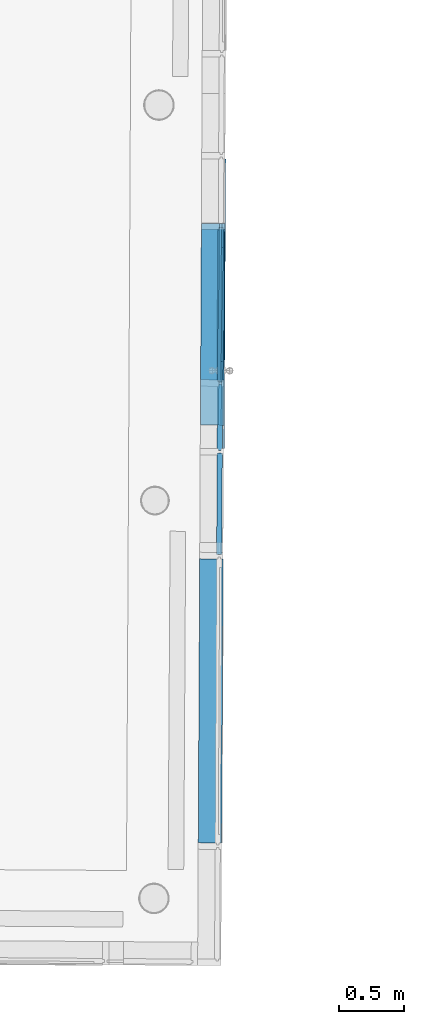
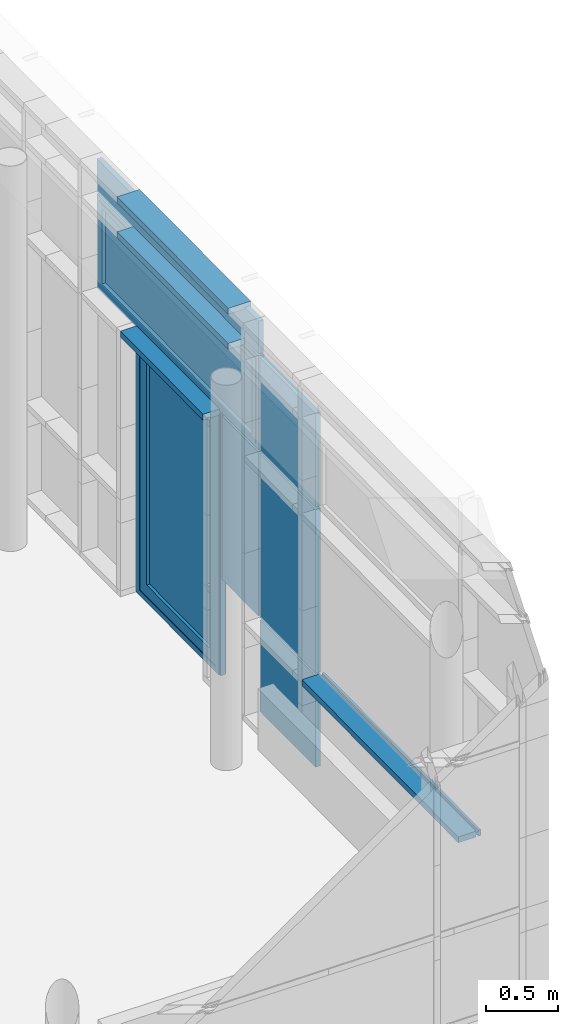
# One storey, part 144 of 196: 13 building element parts, 1 element without a shape of its own.
"""IFC2X3 building model written with IfcOpenShell, lengths in metres."""

from ifc_helpers import new_model, entity, si_unit, converted_unit, derived_unit, money_unit, direction, frame, origin_with_axes, place, context, subcontext, project, spatial, faceted_brep, material, type_object, element, aggregate, save


model = new_model("IFC2X3")

# Units and contexts
model_context = context("Model", 3, precision=1e-05, world=origin_with_axes(), true_north=direction((0.0, 1.0)))
body_context = subcontext(model_context, "Body", "Model", "MODEL_VIEW")
ifc_project = project(units=[si_unit("LENGTHUNIT", "METRE"), si_unit("AREAUNIT", "SQUARE_METRE"), si_unit("VOLUMEUNIT", "CUBIC_METRE"), converted_unit("PLANEANGLEUNIT", "DEGREE", entity("IfcPlaneAngleMeasure", 0.0174532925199), si_unit("PLANEANGLEUNIT", "RADIAN"), dimensions=[0, 0, 0, 0, 0, 0, 0]), money_unit("EUR"), converted_unit("TIMEUNIT", "Year", entity("IfcTimeMeasure", 31556926.0), si_unit("TIMEUNIT", "SECOND"), dimensions=[0, 0, 1, 0, 0, 0, 0]), si_unit("MASSUNIT", "GRAM", prefix="KILO"), si_unit("THERMODYNAMICTEMPERATUREUNIT", "DEGREE_CELSIUS"), si_unit("LUMINOUSINTENSITYUNIT", "LUMEN"), si_unit("ENERGYUNIT", "JOULE", prefix="MEGA"), derived_unit("THERMALCONDUCTANCEUNIT", [(si_unit("POWERUNIT", "WATT"), 1), (si_unit("LENGTHUNIT", "METRE"), -1), (si_unit("THERMODYNAMICTEMPERATUREUNIT", "KELVIN"), -1)]), derived_unit("SPECIFICHEATCAPACITYUNIT", [(si_unit("ENERGYUNIT", "JOULE"), 1), (si_unit("MASSUNIT", "GRAM", prefix="KILO"), -1), (si_unit("THERMODYNAMICTEMPERATUREUNIT", "KELVIN"), -1)]), derived_unit("MASSDENSITYUNIT", [(si_unit("MASSUNIT", "GRAM", prefix="KILO"), 1), (si_unit("VOLUMEUNIT", "CUBIC_METRE"), -1)])], contexts=[model_context])

# Site, building, storey
site_placement = place(None, origin_with_axes())
site = spatial("IfcSite", under=ifc_project, at=site_placement, Name="Gelände", CompositionType="ELEMENT")
building_placement = place(site_placement, origin_with_axes())
building = spatial("IfcBuilding", under=site, at=building_placement, Name="Gebäude", CompositionType="ELEMENT")
storey_placement = place(building_placement, frame((0.0, 0.0, -3.0), z_axis=(0.0, 0.0, 1.0), x_axis=(1.0, 0.0, 0.0)))
storey = spatial("IfcBuildingStorey", under=building, at=storey_placement, Name="KELLERGESCHOSS", CompositionType="ELEMENT", Elevation=-3.0)

# Proxy, building element parts
building_element_proxy_type = type_object("IfcBuildingElementProxyType", Name="Fassadentyp", PredefinedType="NOTDEFINED")
proxy_placement = place(storey_placement, frame((9.16160365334, 37.7476945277, 0.610000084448), z_axis=(0.0, 0.0, 1.0), x_axis=(1.0, 0.0, 0.0)))
proxy = element("IfcBuildingElementProxy", 1, at=proxy_placement, inside=storey, type_object=building_element_proxy_type, Name="Fassade-002")
ifc_material_1 = material(Name="45_Glas, Normalglas")
building_element_part_1_placement = place(proxy_placement, origin_with_axes())
building_element_part_1 = element("IfcBuildingElementPart", 2, at=building_element_part_1_placement, material=ifc_material_1, Name="45_Glas, Normalglas", context=body_context, shape_type="Brep", body=[
    faceted_brep([(-0.0103494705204, 1.90381784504, 3.01949642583), (-0.0138251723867, 1.21816354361, 3.01949642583), (0.0261743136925, 1.2179607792, 3.01949642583), (0.0296500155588, 1.90361508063, 3.01949642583), (-0.0103494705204, 1.90381784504, 2.51999991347), (-0.0103494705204, 1.90381784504, 2.22916311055), (-0.0138251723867, 1.21816354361, 2.22916311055), (-0.0142902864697, 1.12641014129, 2.22916309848), (-0.0142902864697, 1.12641014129, 2.51999991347), (-0.0142902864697, 1.12641014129, 3.01949640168), (0.0257091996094, 1.12620737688, 3.01949640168), (0.0257091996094, 1.12620737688, 2.51999991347), (0.0257091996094, 1.12620737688, 2.22916309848), (0.0261743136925, 1.2179607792, 2.22916311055), (0.0296500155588, 1.90361508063, 2.22916311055), (0.0296500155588, 1.90361508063, 2.51999991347)], [[[0, 1, 2, 3]], [[0, 4, 5, 6, 7, 8, 9, 1]], [[1, 9, 10, 2]], [[3, 2, 10, 11, 12, 13, 14, 15]], [[4, 0, 3, 15]], [[5, 4, 15, 14]], [[6, 5, 14, 13]], [[7, 6, 13, 12]], [[8, 7, 12, 11]], [[9, 8, 11, 10]]]),
])
building_element_part_2_placement = place(proxy_placement, origin_with_axes())
building_element_part_2 = element("IfcBuildingElementPart", 3, at=building_element_part_2_placement, material=ifc_material_1, Name="45_Glas, Normalglas", context=body_context, shape_type="Brep", body=[
    faceted_brep([(-0.0103494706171, 1.90381782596, 0.807169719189), (-0.0138251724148, 1.21816353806, 0.807169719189), (0.0261743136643, 1.21796077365, 0.807169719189), (0.029650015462, 1.90361506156, 0.807169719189), (-0.0103494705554, 1.90381783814, 0.619999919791), (-0.0103494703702, 1.90381787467, 0.0349998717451), (-0.0138251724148, 1.21816353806, 0.0349998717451), (-0.0142902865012, 1.12641013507, 0.0349998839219), (-0.0142902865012, 1.12641013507, 0.619999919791), (-0.0142902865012, 1.12641013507, 0.807169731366), (0.0257091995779, 1.12620737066, 0.807169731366), (0.0257091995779, 1.12620737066, 0.619999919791), (0.0257091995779, 1.12620737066, 0.0349998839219), (0.0261743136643, 1.21796077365, 0.0349998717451), (0.029650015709, 1.90361511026, 0.0349998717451), (0.0296500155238, 1.90361507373, 0.619999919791)], [[[0, 1, 2, 3]], [[0, 4, 5, 6, 7, 8, 9, 1]], [[1, 9, 10, 2]], [[3, 2, 10, 11, 12, 13, 14, 15]], [[4, 0, 3, 15]], [[5, 4, 15, 14]], [[6, 5, 14, 13]], [[7, 6, 13, 12]], [[8, 7, 12, 11]], [[9, 8, 11, 10]]]),
])
building_element_part_3_placement = place(proxy_placement, origin_with_axes())
building_element_part_3 = element("IfcBuildingElementPart", 4, at=building_element_part_3_placement, material=ifc_material_1, Name="45_Glas, Normalglas", context=body_context, shape_type="Brep", body=[
    faceted_brep([(0.00118177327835, 4.17859491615, 3.31499995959), (-0.00140585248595, 3.66813205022, 3.31499995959), (0.0385936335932, 3.66792928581, 3.31499995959), (0.0411812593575, 4.17839215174, 3.31499995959), (0.00118177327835, 4.17859491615, 3.03949643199), (-0.00140585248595, 3.66813205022, 3.03949643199), (-0.00926297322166, 2.11815197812, 3.03949643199), (-0.0102480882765, 1.92381759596, 3.03949643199), (-0.0102480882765, 1.92381759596, 3.31499995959), (-0.00926297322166, 2.11815197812, 3.31499995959), (0.0307365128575, 2.11794921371, 3.31499995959), (0.0297513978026, 1.92361483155, 3.31499995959), (0.0297513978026, 1.92361483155, 3.03949643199), (0.0307365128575, 2.11794921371, 3.03949643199), (0.0385936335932, 3.66792928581, 3.03949643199), (0.0411812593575, 4.17839215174, 3.03949643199)], [[[0, 1, 2, 3]], [[0, 4, 5, 6, 7, 8, 9, 1]], [[1, 9, 10, 2]], [[3, 2, 10, 11, 12, 13, 14, 15]], [[4, 0, 3, 15]], [[5, 4, 15, 14]], [[6, 5, 14, 13]], [[7, 6, 13, 12]], [[8, 7, 12, 11]], [[9, 8, 11, 10]]]),
])
building_element_part_4_placement = place(proxy_placement, origin_with_axes())
building_element_part_4 = element("IfcBuildingElementPart", 5, at=building_element_part_4_placement, material=ifc_material_1, Name="45_Glas, Normalglas", context=body_context, shape_type="Brep", body=[
    faceted_brep([(-0.0103494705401, 1.90381784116, 2.20916310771), (-0.0138251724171, 1.2181635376, 2.20916310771), (0.026174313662, 1.2179607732, 2.20916310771), (0.0296500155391, 1.90361507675, 2.20916310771), (-0.0103494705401, 1.90381784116, 1.41999992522), (-0.0103494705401, 1.90381784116, 0.827169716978), (-0.0138251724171, 1.2181635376, 0.827169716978), (-0.0142902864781, 1.12641013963, 0.827169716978), (-0.0142902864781, 1.12641013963, 1.41999992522), (-0.0142902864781, 1.12641013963, 2.20916308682), (0.025709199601, 1.12620737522, 2.20916308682), (0.025709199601, 1.12620737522, 1.41999992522), (0.025709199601, 1.12620737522, 0.827169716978), (0.026174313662, 1.2179607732, 0.827169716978), (0.0296500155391, 1.90361507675, 0.827169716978), (0.0296500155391, 1.90361507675, 1.41999992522)], [[[0, 1, 2, 3]], [[0, 4, 5, 6, 7, 8, 9, 1]], [[1, 9, 10, 2]], [[3, 2, 10, 11, 12, 13, 14, 15]], [[4, 0, 3, 15]], [[5, 4, 15, 14]], [[6, 5, 14, 13]], [[7, 6, 13, 12]], [[8, 7, 12, 11]], [[9, 8, 11, 10]]]),
])
ifc_material_2 = material(Name="53_Metall, Aluminium")
building_element_part_5_placement = place(proxy_placement, origin_with_axes())
building_element_part_5 = element("IfcBuildingElementPart", 6, at=building_element_part_5_placement, material=ifc_material_2, Name="53_Metall, Aluminium", context=body_context, shape_type="Brep", body=[
    faceted_brep([(0.039827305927, 1.9385639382, 2.24416310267), (0.0511050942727, 4.1633416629, 2.24416310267), (0.0561050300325, 4.16331631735, 2.24416310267), (0.0448272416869, 1.93853859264, 2.24416310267), (0.0400554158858, 1.98356336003, 2.28916310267), (0.0508769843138, 4.11834224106, 2.28916310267), (0.0558769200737, 4.11831689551, 2.28916310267), (0.0450553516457, 1.98353801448, 2.28916310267)], [[[0, 1, 2, 3]], [[0, 4, 5, 1]], [[1, 5, 6, 2]], [[3, 2, 6, 7]], [[4, 0, 3, 7]], [[5, 4, 7, 6]]]),
    faceted_brep([(0.0511050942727, 4.1633416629, 2.24416310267), (0.0511050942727, 4.1633416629, 3.0044964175), (0.0561050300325, 4.16331631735, 3.0044964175), (0.0561050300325, 4.16331631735, 2.24416310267), (0.0508769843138, 4.11834224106, 2.28916310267), (0.0508769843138, 4.11834224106, 2.9594964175), (0.0558769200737, 4.11831689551, 2.9594964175), (0.0558769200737, 4.11831689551, 2.28916310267)], [[[0, 1, 2, 3]], [[0, 4, 5, 1]], [[1, 5, 6, 2]], [[3, 2, 6, 7]], [[4, 0, 3, 7]], [[5, 4, 7, 6]]]),
    faceted_brep([(0.039827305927, 1.9385639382, 3.0044964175), (0.0400554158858, 1.98356336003, 2.9594964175), (0.0450553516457, 1.98353801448, 2.9594964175), (0.0448272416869, 1.93853859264, 3.0044964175), (0.0511050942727, 4.1633416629, 3.0044964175), (0.0508769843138, 4.11834224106, 2.9594964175), (0.0558769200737, 4.11831689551, 2.9594964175), (0.0561050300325, 4.16331631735, 3.0044964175)], [[[0, 1, 2, 3]], [[0, 4, 5, 1]], [[1, 5, 6, 2]], [[3, 2, 6, 7]], [[4, 0, 3, 7]], [[5, 4, 7, 6]]]),
    faceted_brep([(0.039827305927, 1.9385639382, 2.24416310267), (0.0400554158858, 1.98356336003, 2.28916310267), (0.0450553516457, 1.98353801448, 2.28916310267), (0.0448272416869, 1.93853859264, 2.24416310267), (0.039827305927, 1.9385639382, 3.0044964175), (0.0400554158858, 1.98356336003, 2.9594964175), (0.0450553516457, 1.98353801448, 2.9594964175), (0.0448272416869, 1.93853859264, 3.0044964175)], [[[0, 1, 2, 3]], [[0, 4, 5, 1]], [[1, 5, 6, 2]], [[3, 2, 6, 7]], [[4, 0, 3, 7]], [[5, 4, 7, 6]]]),
    faceted_brep([(-0.0101720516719, 1.9388173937, 2.24416310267), (0.00110573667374, 4.16359511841, 2.24416310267), (0.0511050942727, 4.1633416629, 2.24416310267), (0.039827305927, 1.9385639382, 2.24416310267), (-0.010070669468, 1.95881713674, 2.26416310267), (0.00100435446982, 4.14359537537, 2.26416310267), (0.0510037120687, 4.14334191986, 2.26416310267), (0.0399286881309, 1.95856368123, 2.26416310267)], [[[0, 1, 2, 3]], [[0, 4, 5, 1]], [[1, 5, 6, 2]], [[3, 2, 6, 7]], [[4, 0, 3, 7]], [[5, 4, 7, 6]]]),
    faceted_brep([(0.00110573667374, 4.16359511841, 2.24416310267), (0.00110573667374, 4.16359511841, 3.0044964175), (0.0511050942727, 4.1633416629, 3.0044964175), (0.0511050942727, 4.1633416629, 2.24416310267), (0.00100435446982, 4.14359537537, 2.26416310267), (0.00100435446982, 4.14359537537, 2.9844964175), (0.0510037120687, 4.14334191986, 2.9844964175), (0.0510037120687, 4.14334191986, 2.26416310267)], [[[0, 1, 2, 3]], [[0, 4, 5, 1]], [[1, 5, 6, 2]], [[3, 2, 6, 7]], [[4, 0, 3, 7]], [[5, 4, 7, 6]]]),
    faceted_brep([(-0.0101720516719, 1.9388173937, 3.0044964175), (-0.010070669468, 1.95881713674, 2.9844964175), (0.0399286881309, 1.95856368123, 2.9844964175), (0.039827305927, 1.9385639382, 3.0044964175), (0.00110573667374, 4.16359511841, 3.0044964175), (0.00100435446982, 4.14359537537, 2.9844964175), (0.0510037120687, 4.14334191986, 2.9844964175), (0.0511050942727, 4.1633416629, 3.0044964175)], [[[0, 1, 2, 3]], [[0, 4, 5, 1]], [[1, 5, 6, 2]], [[3, 2, 6, 7]], [[4, 0, 3, 7]], [[5, 4, 7, 6]]]),
    faceted_brep([(-0.0101720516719, 1.9388173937, 2.24416310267), (-0.010070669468, 1.95881713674, 2.26416310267), (0.0399286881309, 1.95856368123, 2.26416310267), (0.039827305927, 1.9385639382, 2.24416310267), (-0.0101720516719, 1.9388173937, 3.0044964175), (-0.010070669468, 1.95881713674, 2.9844964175), (0.0399286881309, 1.95856368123, 2.9844964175), (0.039827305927, 1.9385639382, 3.0044964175)], [[[0, 1, 2, 3]], [[0, 4, 5, 1]], [[1, 5, 6, 2]], [[3, 2, 6, 7]], [[4, 0, 3, 7]], [[5, 4, 7, 6]]]),
    faceted_brep([(-0.0102480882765, 1.92381759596, 2.22916311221), (0.00118177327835, 4.17859491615, 2.22916311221), (0.0411812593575, 4.17839215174, 2.22916311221), (0.0297513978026, 1.92361483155, 2.22916311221), (-0.0101720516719, 1.9388173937, 2.24416310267), (0.00110573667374, 4.16359511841, 2.24416310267), (0.0411052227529, 4.163392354, 2.24416310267), (0.0298274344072, 1.9386146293, 2.24416310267)], [[[0, 1, 2, 3]], [[0, 4, 5, 1]], [[1, 5, 6, 2]], [[3, 2, 6, 7]], [[4, 0, 3, 7]], [[5, 4, 7, 6]]]),
    faceted_brep([(0.00118177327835, 4.17859491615, 2.22916311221), (0.00118177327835, 4.17859491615, 3.01949644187), (0.0411812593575, 4.17839215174, 3.01949644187), (0.0411812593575, 4.17839215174, 2.22916311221), (0.00110573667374, 4.16359511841, 2.24416310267), (0.00110573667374, 4.16359511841, 3.0044964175), (0.0411052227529, 4.163392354, 3.0044964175), (0.0411052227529, 4.163392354, 2.24416310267)], [[[0, 1, 2, 3]], [[0, 4, 5, 1]], [[1, 5, 6, 2]], [[3, 2, 6, 7]], [[4, 0, 3, 7]], [[5, 4, 7, 6]]]),
    faceted_brep([(0.00118177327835, 4.17859491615, 3.01949644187), (-0.0102480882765, 1.92381759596, 3.01949644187), (0.0297513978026, 1.92361483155, 3.01949644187), (0.0411812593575, 4.17839215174, 3.01949644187), (0.00110573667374, 4.16359511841, 3.0044964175), (-0.0101720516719, 1.9388173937, 3.0044964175), (0.0298274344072, 1.9386146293, 3.0044964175), (0.0411052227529, 4.163392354, 3.0044964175)], [[[0, 1, 2, 3]], [[0, 4, 5, 1]], [[1, 5, 6, 2]], [[3, 2, 6, 7]], [[4, 0, 3, 7]], [[5, 4, 7, 6]]]),
    faceted_brep([(-0.0102480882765, 1.92381759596, 3.01949644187), (-0.0102480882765, 1.92381759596, 2.22916311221), (0.0297513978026, 1.92361483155, 2.22916311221), (0.0297513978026, 1.92361483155, 3.01949644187), (-0.0101720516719, 1.9388173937, 3.0044964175), (-0.0101720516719, 1.9388173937, 2.24416310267), (0.0298274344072, 1.9386146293, 2.24416310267), (0.0298274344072, 1.9386146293, 3.0044964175)], [[[0, 1, 2, 3]], [[0, 4, 5, 1]], [[1, 5, 6, 2]], [[3, 2, 6, 7]], [[4, 0, 3, 7]], [[5, 4, 7, 6]]]),
    faceted_brep([(0.0401567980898, 2.00356310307, 2.30916310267), (-0.0148424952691, 2.00384190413, 2.30916310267), (-0.0148424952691, 2.00384190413, 2.9394964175), (0.0401567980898, 2.00356310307, 2.9394964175), (0.0399286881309, 1.95856368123, 2.26416310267), (-0.0150706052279, 1.9588424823, 2.26416310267), (-0.0150706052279, 1.9588424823, 2.9844964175), (0.0399286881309, 1.95856368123, 2.9844964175)], [[[0, 1, 2, 3]], [[4, 5, 1, 0]], [[1, 5, 6, 2]], [[3, 2, 6, 7]], [[0, 3, 7, 4]], [[7, 6, 5, 4]]]),
    faceted_brep([(0.0510037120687, 4.14334191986, 2.26416310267), (-0.00399558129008, 4.14362072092, 2.26416310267), (-0.00399558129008, 4.14362072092, 2.9844964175), (0.0510037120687, 4.14334191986, 2.9844964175), (0.0507756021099, 4.09834249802, 2.30916310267), (-0.0042236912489, 4.09862129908, 2.30916310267), (-0.0042236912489, 4.09862129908, 2.9394964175), (0.0507756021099, 4.09834249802, 2.9394964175)], [[[0, 1, 2, 3]], [[4, 5, 1, 0]], [[1, 5, 6, 2]], [[3, 2, 6, 7]], [[0, 3, 7, 4]], [[7, 6, 5, 4]]]),
    faceted_brep([(0.0510037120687, 4.14334191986, 2.26416310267), (-0.00399558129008, 4.14362072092, 2.26416310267), (-0.0042236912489, 4.09862129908, 2.30916310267), (0.0507756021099, 4.09834249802, 2.30916310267), (0.0399286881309, 1.95856368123, 2.26416310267), (-0.0150706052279, 1.9588424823, 2.26416310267), (-0.0148424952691, 2.00384190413, 2.30916310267), (0.0401567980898, 2.00356310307, 2.30916310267)], [[[0, 1, 2, 3]], [[4, 5, 1, 0]], [[1, 5, 6, 2]], [[3, 2, 6, 7]], [[0, 3, 7, 4]], [[7, 6, 5, 4]]]),
    faceted_brep([(0.0399286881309, 1.95856368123, 2.9844964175), (-0.0150706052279, 1.9588424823, 2.9844964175), (-0.0148424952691, 2.00384190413, 2.9394964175), (0.0401567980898, 2.00356310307, 2.9394964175), (0.0510037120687, 4.14334191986, 2.9844964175), (-0.00399558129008, 4.14362072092, 2.9844964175), (-0.0042236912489, 4.09862129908, 2.9394964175), (0.0507756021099, 4.09834249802, 2.9394964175)], [[[0, 1, 2, 3]], [[4, 5, 1, 0]], [[1, 5, 6, 2]], [[3, 2, 6, 7]], [[0, 3, 7, 4]], [[7, 6, 5, 4]]]),
])
building_element_part_6_placement = place(proxy_placement, origin_with_axes())
building_element_part_6 = element("IfcBuildingElementPart", 7, at=building_element_part_6_placement, material=ifc_material_1, Name="45_Glas, Normalglas", context=body_context, shape_type="Brep", body=[
    faceted_brep([(0.03015692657, 2.00361379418, 2.30916310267), (0.0141571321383, 2.00369489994, 2.30916310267), (0.0247759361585, 4.09847429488, 2.30916310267), (0.0407757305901, 4.09839318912, 2.30916310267), (0.03015692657, 2.00361379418, 2.9394964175), (0.0141571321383, 2.00369489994, 2.9394964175), (0.0247759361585, 4.09847429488, 2.9394964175), (0.0407757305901, 4.09839318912, 2.9394964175)], [[[0, 1, 2, 3]], [[4, 5, 1, 0]], [[1, 5, 6, 2]], [[3, 2, 6, 7]], [[0, 3, 7, 4]], [[7, 6, 5, 4]]]),
])
building_element_part_7_placement = place(proxy_placement, origin_with_axes())
building_element_part_7 = element("IfcBuildingElementPart", 8, at=building_element_part_7_placement, material=ifc_material_1, Name="45_Glas, Normalglas", context=body_context, shape_type="Brep", body=[
    faceted_brep([(-0.0076699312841, 2.43241255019, 2.20916310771), (-0.00926297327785, 2.11815196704, 2.20916310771), (0.0307365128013, 2.11794920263, 2.20916310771), (0.032329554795, 2.43220978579, 2.20916310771), (-0.0076699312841, 2.43241255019, 1.41999992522), (-0.0076699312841, 2.43241255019, 0.827169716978), (-0.00926297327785, 2.11815196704, 0.827169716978), (-0.0102480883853, 1.9238175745, 0.827169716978), (-0.0102480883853, 1.9238175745, 1.41999992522), (-0.0102480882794, 1.92381759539, 2.20916310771), (0.0297513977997, 1.92361483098, 2.20916310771), (0.0297513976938, 1.92361481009, 1.41999992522), (0.0297513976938, 1.92361481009, 0.827169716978), (0.0307365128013, 2.11794920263, 0.827169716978), (0.032329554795, 2.43220978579, 0.827169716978), (0.032329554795, 2.43220978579, 1.41999992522)], [[[0, 1, 2, 3]], [[0, 4, 5, 6, 7, 8, 9, 1]], [[1, 9, 10, 2]], [[3, 2, 10, 11, 12, 13, 14, 15]], [[4, 0, 3, 15]], [[5, 4, 15, 14]], [[6, 5, 14, 13]], [[7, 6, 13, 12]], [[8, 7, 12, 11]], [[9, 8, 11, 10]]]),
])
building_element_part_8_placement = place(proxy_placement, origin_with_axes())
building_element_part_8 = element("IfcBuildingElementPart", 9, at=building_element_part_8_placement, material=ifc_material_2, Name="53_Metall, Aluminium", context=body_context, shape_type="Brep", body=[
    faceted_brep([(-0.0124924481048, 2.4674374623, 2.19416309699), (-0.0124924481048, 2.4674374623, -1.22907543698e-07), (-0.00749251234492, 2.46741211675, -1.22907543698e-07), (-0.00749251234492, 2.46741211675, 2.19416309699), (-0.012264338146, 2.51243688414, 2.19416309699), (-0.012264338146, 2.51243688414, 0.0449998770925), (-0.0072644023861, 2.51241153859, 0.0449998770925), (-0.0072644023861, 2.51241153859, 2.19416309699)], [[[0, 1, 2, 3]], [[0, 4, 5, 1]], [[1, 5, 6, 2]], [[3, 2, 6, 7]], [[4, 0, 3, 7]], [[5, 4, 7, 6]]]),
    faceted_brep([(-0.00663463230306, 3.6230131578, -1.22907543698e-07), (-0.00686274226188, 3.57801373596, 0.0449998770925), (-0.00186280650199, 3.57798839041, 0.0449998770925), (-0.00163469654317, 3.62298781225, -1.22907543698e-07), (-0.0124924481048, 2.4674374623, -1.22907543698e-07), (-0.012264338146, 2.51243688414, 0.0449998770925), (-0.0072644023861, 2.51241153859, 0.0449998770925), (-0.00749251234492, 2.46741211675, -1.22907543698e-07)], [[[0, 1, 2, 3]], [[0, 4, 5, 1]], [[1, 5, 6, 2]], [[3, 2, 6, 7]], [[4, 0, 3, 7]], [[5, 4, 7, 6]]]),
    faceted_brep([(-0.00663463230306, 3.6230131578, 2.19416309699), (-0.00686274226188, 3.57801373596, 2.19416309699), (-0.00186280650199, 3.57798839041, 2.19416309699), (-0.00163469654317, 3.62298781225, 2.19416309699), (-0.00663463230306, 3.6230131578, -1.22907543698e-07), (-0.00686274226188, 3.57801373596, 0.0449998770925), (-0.00186280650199, 3.57798839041, 0.0449998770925), (-0.00163469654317, 3.62298781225, -1.22907543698e-07)], [[[0, 1, 2, 3]], [[0, 4, 5, 1]], [[1, 5, 6, 2]], [[3, 2, 6, 7]], [[4, 0, 3, 7]], [[5, 4, 7, 6]]]),
    faceted_brep([(-0.00749251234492, 2.46741211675, 2.19416309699), (-0.00749251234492, 2.46741211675, -1.22907543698e-07), (0.042506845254, 2.46715866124, -1.22907543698e-07), (0.042506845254, 2.46715866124, 2.19416309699), (-0.007391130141, 2.48741185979, 2.19416309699), (-0.007391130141, 2.48741185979, 0.0199998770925), (0.0426082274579, 2.48715840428, 0.0199998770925), (0.0426082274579, 2.48715840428, 2.19416309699)], [[[0, 1, 2, 3]], [[0, 4, 5, 1]], [[1, 5, 6, 2]], [[3, 2, 6, 7]], [[4, 0, 3, 7]], [[5, 4, 7, 6]]]),
    faceted_brep([(-0.00163469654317, 3.62298781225, -1.22907543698e-07), (-0.00173607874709, 3.60298806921, 0.0199998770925), (0.0482632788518, 3.6027346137, 0.0199998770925), (0.0483646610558, 3.62273435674, -1.22907543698e-07), (-0.00749251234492, 2.46741211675, -1.22907543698e-07), (-0.007391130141, 2.48741185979, 0.0199998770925), (0.0426082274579, 2.48715840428, 0.0199998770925), (0.042506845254, 2.46715866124, -1.22907543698e-07)], [[[0, 1, 2, 3]], [[0, 4, 5, 1]], [[1, 5, 6, 2]], [[3, 2, 6, 7]], [[4, 0, 3, 7]], [[5, 4, 7, 6]]]),
    faceted_brep([(-0.00163469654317, 3.62298781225, 2.19416309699), (-0.00173607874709, 3.60298806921, 2.19416309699), (0.0482632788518, 3.6027346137, 2.19416309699), (0.0483646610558, 3.62273435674, 2.19416309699), (-0.00163469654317, 3.62298781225, -1.22907543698e-07), (-0.00173607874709, 3.60298806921, 0.0199998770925), (0.0482632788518, 3.6027346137, 0.0199998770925), (0.0483646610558, 3.62273435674, -1.22907543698e-07)], [[[0, 1, 2, 3]], [[0, 4, 5, 1]], [[1, 5, 6, 2]], [[3, 2, 6, 7]], [[4, 0, 3, 7]], [[5, 4, 7, 6]]]),
    faceted_brep([(-0.00155865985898, 3.63798762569, -1.22907543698e-07), (-0.00155865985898, 3.63798762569, 2.20916310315), (0.0384408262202, 3.63778486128, 2.20916310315), (0.0384408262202, 3.63778486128, -1.22907543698e-07), (-0.00163469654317, 3.62298781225, -1.22907543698e-07), (-0.00163469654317, 3.62298781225, 2.19416309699), (0.038364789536, 3.62278504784, 2.19416309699), (0.038364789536, 3.62278504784, -1.22907543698e-07)], [[[0, 1, 2, 3]], [[0, 4, 5, 1]], [[1, 5, 6, 2]], [[3, 2, 6, 7]], [[4, 0, 3, 7]], [[5, 4, 7, 6]]]),
    faceted_brep([(-0.00155865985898, 3.63798762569, 2.20916310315), (-0.00756854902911, 2.45241230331, 2.20916310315), (0.03243093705, 2.4522095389, 2.20916310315), (0.0384408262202, 3.63778486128, 2.20916310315), (-0.00163469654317, 3.62298781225, 2.19416309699), (-0.00749251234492, 2.46741211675, 2.19416309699), (0.0325069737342, 2.46720935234, 2.19416309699), (0.038364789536, 3.62278504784, 2.19416309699)], [[[0, 1, 2, 3]], [[0, 4, 5, 1]], [[1, 5, 6, 2]], [[3, 2, 6, 7]], [[4, 0, 3, 7]], [[5, 4, 7, 6]]]),
    faceted_brep([(-0.00756854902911, 2.45241230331, 2.20916310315), (-0.00756854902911, 2.45241230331, -1.22907543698e-07), (0.03243093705, 2.4522095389, -1.22907543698e-07), (0.03243093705, 2.4522095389, 2.20916310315), (-0.00749251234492, 2.46741211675, 2.19416309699), (-0.00749251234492, 2.46741211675, -1.22907543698e-07), (0.0325069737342, 2.46720935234, -1.22907543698e-07), (0.0325069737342, 2.46720935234, 2.19416309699)], [[[0, 1, 2, 3]], [[0, 4, 5, 1]], [[1, 5, 6, 2]], [[3, 2, 6, 7]], [[4, 0, 3, 7]], [[5, 4, 7, 6]]]),
    faceted_brep([(-0.00234437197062, 3.48298961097, 2.07416309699), (-0.00234437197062, 3.48298961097, 0.139999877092), (0.0476549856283, 3.48273615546, 0.139999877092), (0.0476549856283, 3.48273615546, 2.07416309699), (-0.00173607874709, 3.60298806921, 2.19416309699), (-0.00173607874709, 3.60298806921, 0.0199998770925), (0.0482632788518, 3.6027346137, 0.0199998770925), (0.0482632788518, 3.6027346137, 2.19416309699)], [[[0, 1, 2, 3]], [[0, 4, 5, 1]], [[1, 5, 6, 2]], [[3, 2, 6, 7]], [[4, 0, 3, 7]], [[5, 4, 7, 6]]]),
    faceted_brep([(-0.007391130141, 2.48741185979, 2.19416309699), (-0.007391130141, 2.48741185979, 0.0199998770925), (0.0426082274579, 2.48715840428, 0.0199998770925), (0.0426082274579, 2.48715840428, 2.19416309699), (-0.00678283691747, 2.60741031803, 2.07416309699), (-0.00678283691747, 2.60741031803, 0.139999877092), (0.0432165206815, 2.60715686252, 0.139999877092), (0.0432165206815, 2.60715686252, 2.07416309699)], [[[0, 1, 2, 3]], [[0, 4, 5, 1]], [[1, 5, 6, 2]], [[3, 2, 6, 7]], [[4, 0, 3, 7]], [[5, 4, 7, 6]]]),
    faceted_brep([(-0.007391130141, 2.48741185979, 2.19416309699), (-0.00678283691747, 2.60741031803, 2.07416309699), (0.0432165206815, 2.60715686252, 2.07416309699), (0.0426082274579, 2.48715840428, 2.19416309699), (-0.00173607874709, 3.60298806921, 2.19416309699), (-0.00234437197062, 3.48298961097, 2.07416309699), (0.0476549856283, 3.48273615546, 2.07416309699), (0.0482632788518, 3.6027346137, 2.19416309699)], [[[0, 1, 2, 3]], [[0, 4, 5, 1]], [[1, 5, 6, 2]], [[3, 2, 6, 7]], [[4, 0, 3, 7]], [[5, 4, 7, 6]]]),
    faceted_brep([(-0.00173607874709, 3.60298806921, 0.0199998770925), (-0.00234437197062, 3.48298961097, 0.139999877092), (0.0476549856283, 3.48273615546, 0.139999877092), (0.0482632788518, 3.6027346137, 0.0199998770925), (-0.007391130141, 2.48741185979, 0.0199998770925), (-0.00678283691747, 2.60741031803, 0.139999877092), (0.0432165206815, 2.60715686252, 0.139999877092), (0.0426082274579, 2.48715840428, 0.0199998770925)], [[[0, 1, 2, 3]], [[0, 4, 5, 1]], [[1, 5, 6, 2]], [[3, 2, 6, 7]], [[4, 0, 3, 7]], [[5, 4, 7, 6]]]),
])
building_element_part_9_placement = place(proxy_placement, origin_with_axes())
building_element_part_9 = element("IfcBuildingElementPart", 10, at=building_element_part_9_placement, material=ifc_material_1, Name="45_Glas, Normalglas", context=body_context, shape_type="Brep", body=[
    faceted_brep([(0.0216553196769, 3.48286795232, 2.07416309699), (0.01721685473, 2.60728865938, 2.07416309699), (0.0332166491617, 2.60720755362, 2.07416309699), (0.0376551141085, 3.48278684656, 2.07416309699), (0.0216553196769, 3.48286795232, 0.139999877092), (0.01721685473, 2.60728865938, 0.139999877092), (0.0332166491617, 2.60720755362, 0.139999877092), (0.0376551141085, 3.48278684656, 0.139999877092)], [[[0, 1, 2, 3]], [[0, 4, 5, 1]], [[1, 5, 6, 2]], [[3, 2, 6, 7]], [[4, 0, 3, 7]], [[5, 4, 7, 6]]]),
])
building_element_part_10_placement = place(proxy_placement, origin_with_axes())
building_element_part_10 = element("IfcBuildingElementPart", 11, at=building_element_part_10_placement, material=ifc_material_2, Name="53_Metall, Aluminium", context=body_context, shape_type="Brep", body=[
    faceted_brep([(0.00859401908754, 3.66808136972, 3.31499994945), (0.00859401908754, 3.66808136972, 3.29999994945), (-0.131404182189, 3.66879104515, 3.29999994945), (-0.131404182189, 3.66879104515, 3.34999994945), (0.0485935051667, 3.66787860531, 3.34999994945), (0.0485935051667, 3.66787860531, 3.29999994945), (0.0285937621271, 3.66797998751, 3.29999994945), (0.0285937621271, 3.66797998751, 3.31499994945), (0.000736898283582, 2.11810128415, 3.31499994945), (0.000736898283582, 2.11810128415, 3.29999994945), (-0.139261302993, 2.11881095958, 3.29999994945), (-0.139261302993, 2.11881095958, 3.34999994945), (0.0407363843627, 2.11789851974, 3.34999994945), (0.0407363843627, 2.11789851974, 3.29999994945), (0.0207366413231, 2.11799990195, 3.29999994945), (0.0207366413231, 2.11799990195, 3.31499994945)], [[[0, 1, 2, 3, 4, 5, 6, 7]], [[0, 8, 9, 1]], [[9, 10, 2, 1]], [[10, 11, 3, 2]], [[11, 12, 4, 3]], [[12, 13, 5, 4]], [[6, 5, 13, 14]], [[14, 15, 7, 6]], [[7, 15, 8, 0]], [[8, 15, 14, 13, 12, 11, 10, 9]]]),
])
building_element_part_11_placement = place(proxy_placement, origin_with_axes())
building_element_part_11 = element("IfcBuildingElementPart", 12, at=building_element_part_11_placement, material=ifc_material_2, Name="53_Metall, Aluminium", context=body_context, shape_type="Brep", body=[
    faceted_brep([(0.00859401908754, 3.66808136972, 3.01949642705), (0.00859401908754, 3.66808136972, 3.00449642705), (-0.131404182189, 3.66879104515, 3.00449642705), (-0.131404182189, 3.66879104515, 3.05449642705), (0.00859401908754, 3.66808136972, 3.05449642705), (0.00859401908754, 3.66808136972, 3.03949642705), (0.0285937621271, 3.66797998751, 3.03949642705), (0.0285937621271, 3.66797998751, 3.05449642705), (0.0485935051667, 3.66787860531, 3.05449642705), (0.0485935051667, 3.66787860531, 3.00449642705), (0.0285937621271, 3.66797998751, 3.00449642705), (0.0285937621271, 3.66797998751, 3.01949642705), (0.000736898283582, 2.11810128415, 3.01949642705), (0.000736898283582, 2.11810128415, 3.00449642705), (-0.139261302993, 2.11881095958, 3.00449642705), (-0.139261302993, 2.11881095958, 3.05449642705), (0.000736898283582, 2.11810128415, 3.05449642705), (0.000736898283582, 2.11810128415, 3.03949642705), (0.0207366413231, 2.11799990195, 3.03949642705), (0.0207366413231, 2.11799990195, 3.05449642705), (0.0407363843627, 2.11789851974, 3.05449642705), (0.0407363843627, 2.11789851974, 3.00449642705), (0.0207366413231, 2.11799990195, 3.00449642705), (0.0207366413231, 2.11799990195, 3.01949642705)], [[[0, 1, 2, 3, 4, 5, 6, 7, 8, 9, 10, 11]], [[1, 0, 12, 13]], [[1, 13, 14, 2]], [[3, 2, 14, 15]], [[4, 3, 15, 16]], [[4, 16, 17, 5]], [[5, 17, 18, 6]], [[7, 6, 18, 19]], [[19, 20, 8, 7]], [[9, 8, 20, 21]], [[22, 10, 9, 21]], [[11, 10, 22, 23]], [[0, 11, 23, 12]], [[23, 22, 21, 20, 19, 18, 17, 16, 15, 14, 13, 12]]]),
])
building_element_part_12_placement = place(proxy_placement, origin_with_axes())
building_element_part_12 = element("IfcBuildingElementPart", 13, at=building_element_part_12_placement, material=ifc_material_2, Name="53_Metall, Aluminium", context=body_context, shape_type="Brep", body=[
    faceted_brep([(-0.00446783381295, 1.09135989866, 0.807169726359), (-0.00446783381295, 1.09135989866, 0.792169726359), (-0.14446603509, 1.09206957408, 0.792169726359), (-0.14446603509, 1.09206957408, 0.842169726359), (-0.00446783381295, 1.09135989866, 0.842169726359), (-0.00446783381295, 1.09135989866, 0.827169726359), (0.0155319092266, 1.09125851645, 0.827169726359), (0.0155319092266, 1.09125851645, 0.842169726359), (0.0355316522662, 1.09115713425, 0.842169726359), (0.0355316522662, 1.09115713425, 0.792169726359), (0.0155319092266, 1.09125851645, 0.792169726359), (0.0155319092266, 1.09125851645, 0.807169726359), (-0.0155319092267, -1.09125851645, 0.807169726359), (-0.0155319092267, -1.09125851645, 0.792169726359), (-0.155530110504, -1.09054884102, 0.792169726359), (-0.155530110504, -1.09054884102, 0.842169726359), (-0.0155319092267, -1.09125851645, 0.842169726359), (-0.0155319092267, -1.09125851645, 0.827169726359), (0.00446783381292, -1.09135989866, 0.827169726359), (0.00446783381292, -1.09135989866, 0.842169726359), (0.0244675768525, -1.09146128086, 0.842169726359), (0.0244675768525, -1.09146128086, 0.792169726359), (0.00446783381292, -1.09135989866, 0.792169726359), (0.00446783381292, -1.09135989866, 0.807169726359)], [[[0, 1, 2, 3, 4, 5, 6, 7, 8, 9, 10, 11]], [[1, 0, 12, 13]], [[1, 13, 14, 2]], [[2, 14, 15, 3]], [[4, 3, 15, 16]], [[4, 16, 17, 5]], [[5, 17, 18, 6]], [[7, 6, 18, 19]], [[19, 20, 8, 7]], [[8, 20, 21, 9]], [[22, 10, 9, 21]], [[11, 10, 22, 23]], [[0, 11, 23, 12]], [[23, 22, 21, 20, 19, 18, 17, 16, 15, 14, 13, 12]]]),
])
building_element_part_13_placement = place(proxy_placement, origin_with_axes())
building_element_part_13 = element("IfcBuildingElementPart", 14, at=building_element_part_13_placement, material=ifc_material_2, Name="53_Metall, Aluminium", context=body_context, shape_type="Brep", body=[
    faceted_brep([(0.00836517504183, 3.62293713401, 2.20916310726), (0.00836517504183, 3.62293713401, 2.19416310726), (-0.131633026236, 3.6236468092, 2.19416310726), (-0.131633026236, 3.6236468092, 2.24416310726), (0.00836517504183, 3.62293713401, 2.24416310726), (0.00836517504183, 3.62293713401, 2.22916310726), (0.0283649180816, 3.62283575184, 2.22916310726), (0.0283649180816, 3.62283575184, 2.24416310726), (0.0483646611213, 3.62273436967, 2.24416310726), (0.0483646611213, 3.62273436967, 2.19416310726), (0.0283649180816, 3.62283575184, 2.19416310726), (0.0283649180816, 3.62283575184, 2.20916310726), (0.00250735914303, 2.46736141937, 2.20916310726), (0.00250735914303, 2.46736141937, 2.19416310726), (-0.137490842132, 2.46807109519, 2.19416310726), (-0.137490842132, 2.46807109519, 2.24416310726), (0.00250735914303, 2.46736141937, 2.24416310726), (0.00250735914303, 2.46736141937, 2.22916310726), (0.0225071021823, 2.46726003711, 2.22916310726), (0.0225071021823, 2.46726003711, 2.24416310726), (0.0425068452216, 2.46715865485, 2.24416310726), (0.0425068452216, 2.46715865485, 2.19416310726), (0.0225071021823, 2.46726003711, 2.19416310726), (0.0225071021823, 2.46726003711, 2.20916310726)], [[[0, 1, 2, 3, 4, 5, 6, 7, 8, 9, 10, 11]], [[1, 0, 12, 13]], [[1, 13, 14, 2]], [[2, 14, 15, 3]], [[4, 3, 15, 16]], [[4, 16, 17, 5]], [[5, 17, 18, 6]], [[7, 6, 18, 19]], [[19, 20, 8, 7]], [[8, 20, 21, 9]], [[22, 10, 9, 21]], [[11, 10, 22, 23]], [[0, 11, 23, 12]], [[23, 22, 21, 20, 19, 18, 17, 16, 15, 14, 13, 12]]]),
])
aggregate(proxy, [building_element_part_1, building_element_part_2, building_element_part_3, building_element_part_4, building_element_part_5, building_element_part_6, building_element_part_7, building_element_part_8, building_element_part_9, building_element_part_10, building_element_part_11, building_element_part_12, building_element_part_13])

save(model, "model.ifc")
